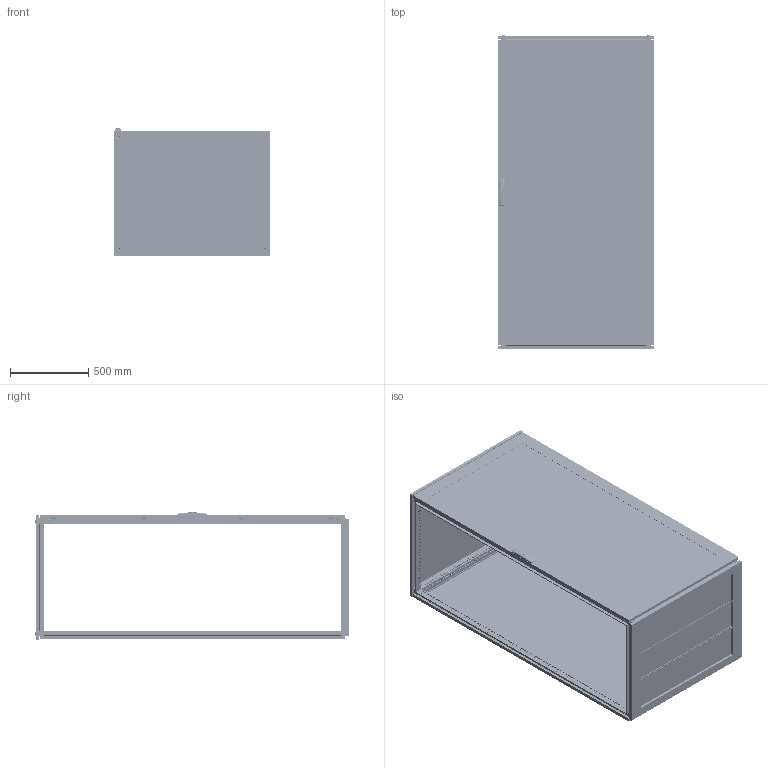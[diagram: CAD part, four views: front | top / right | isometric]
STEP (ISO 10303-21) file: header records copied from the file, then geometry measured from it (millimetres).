
FILE_DESCRIPTION (( 'STEP AP203' ), '1' );
FILE_NAME ('R5CQEN20108AX.STEP', '2025-05-07T12:04:32', ( '' ), ( '' ), 'SwSTEP 2.0', 'SolidWorks 2022', '' );
FILE_SCHEMA (( 'CONFIG_CONTROL_DESIGN' ));
Length unit declared in the file: millimetre
Products named in the file (65): RB.0528.00.01.0 simple_-05; R5NKTB - Assem simple_H=2000 R5NKTB108; RB.2680.00.00.0 СБ simple; RB.2686.00.00.0 simple; RB.2455.00.00.0 simple_-04; M6x10 DIN 7500 E HX cl.5.8 Zinc_straight; PF 7x14 CRE simple_2000x1000; R5NCPTE - Assem simple_R5NCPTE20100; RB.2680.00.01.0 simple; RB.2499.01.00.0 СБ simple_-26; RB.1957.00.00.0 simple_-16; Pin 4x16 DIN 7 AISI 303 (A1) simple; R5NCRE-Assem simple_R5NCRE20100; RB.0054.01.01.0 simple_-25; RB.2052.00.00.0 СБ simple_-25; 4,0x16 F Torx Zinc (ART 88200)_thread; RB.2357.00.00.0 simple_-07; M12x16 ISO 7380-1 HX cl.4,8 Zinc_straight; М6х12 A5100231_straight; M8x12 AC00C476 cl.8,8 Zinc_stright; Square cap 20x20 simple; RB.2702.00.00.0 simple; RB.1633.00.01.0 simple_-04; ATOS Traction guide ILY03.35; RB.2969.00.00.0 СБ simple; RB.0562.01.01.0 simple_-17; RB.2968.00.00.0 simple; 7 DIN 6799 Zinc; 4.8x13 DIN 7981 PH Zinc_straight; RB.2680.00.02.0 simple; 7 DIN 6799 Zinc simple; TPA.08.0139.00.03.0; RB.0528.04.01.0 simple; RB.1633.00.02.0 simple_-03; RB.2685.00.00.0 simple_-03; RB.2969.00.01.0 simple; RB.2052.01.00.0 СБ simple_-25; RB.2457.00.00.0 СБ simple_-27; TPA.08.0139.00.01.0 simple; R5CQEN20108AX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
Assembly tree (176 placements, depth 5):
  R5CQEN20108AX
    R5NCPTE - Assem simple_R5NCPTE20100
      RB.0562.00.00.0 СБ simple_-17
        RB.0562.01.00.0 СБ simple_-17
          RB.0562.01.01.0 simple_-17
          М6х12 A5100231_straight  x9
          RB.2702.00.00.0 simple  x4
          PF 7,5x15 CPE simple_2000x1000
          Glass CPTE_2000x1000
          Glue CPTE simple_2000x1000
        Square cap 20x20 simple  x2
        M6x15 Erickson cl.4,8 Zinc  x3
        RB.0528.00.01.0 simple_-05  x2
        ATOS Traction guide ILY03.35  x4
        RB.2357.00.00.0 simple_-07
        RB.2680.00.00.0 СБ simple
          TPA.08.0139.00.01.0 simple
          RB.2680.00.01.0 simple
          RB.2680.00.02.0 simple  x2
        TPA.08.0139.00.03.0  x2
        M6 DIN 985 cl.6,0 Zinc_straight  x4
        4,0x16 F Torx Zinc (ART 88200)_thread  x2
        RB.0528.04.00.0 СБ simple  x2
          RB.0528.04.01.0 simple
          Pressing stud FH-M6-12_M6x12mm
      M6x10 DIN 912 HX cl.8,8 Zinc_straight  x8
      4.8x13 DIN 7981 PH Zinc_straight
      7 DIN 6799 Zinc simple  x4
      RB.2968.00.00.0 simple  x4
      RB.2969.00.00.0 СБ simple  x4
        RB.2969.00.01.0 simple
        Pin 4x16 DIN 7 AISI 303 (A1) simple
        M6 MGR-MKO-0625 simple_Thread
      AC00C446-R
      RB.2696.00.00.0 simple  x4
      7 DIN 6799 Zinc  x4
    R5NCRE-Assem simple_R5NCRE20100
      RB.2052.00.00.0 СБ simple_-25
        RB.2052.01.00.0 СБ simple_-25
          RB.0054.01.01.0 simple_-25
          М6х12 A5100231_straight  x4
        PF 7x14 CRE simple_2000x1000
      RB.2172.00.00.1 simple  x8
      M6x10 DIN 7500 E HX cl.5.8 Zinc_straight  x8
      M6x10 DIN 7500 M Torx cl.5.8 Zinc_straight  x8
    R5NKMN - Assem simple_R5NKMN20 (1000х800)
      RB.2528.00.00.0 simple_-05  x4
    R5NKTB - Assem simple_H=2000 R5NKTB108
      RB.2499.00.00.0 СБ simple_-27
        RB.2499.01.00.0 СБ simple_-26
          RB.1633.00.01.0 simple_-04  x2
          RB.1633.00.02.0 simple_-03  x2
          PF 5x10 KTB simple_1000x800
        RB.2457.00.00.0 СБ simple_-27
          RB.2455.00.00.0 simple_-04  x2
          RB.2456.00.00.0 simple_-03  x2
          TPA.08.0084.00.00.0 simple  x2
          TPA.08.0083.00.00.0 simple  x2
          M8x12 AC00C476 cl.8,8 Zinc_stright  x4
        RB.1957.00.00.0 simple_-16  x3
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Bounding box: 1000 x 2013.3 x 814.79 mm (x, y, z)
Volume: 22409414.4 mm3; surface area: 19512475.8 mm2
Topology: 179 solids, 195 shells, 24861 faces, 70839 edges, 46724 vertices
Faces by surface type: plane 13635, cylinder 9675, cone 714, bspline 435, torus 368, sphere 34
Entity records: 246189 total; most frequent: CARTESIAN_POINT 59126, ORIENTED_EDGE 37210, DIRECTION 35765, EDGE_CURVE 18631, VERTEX_POINT 12346, AXIS2_PLACEMENT_3D 12056, LINE 11653, VECTOR 11653
